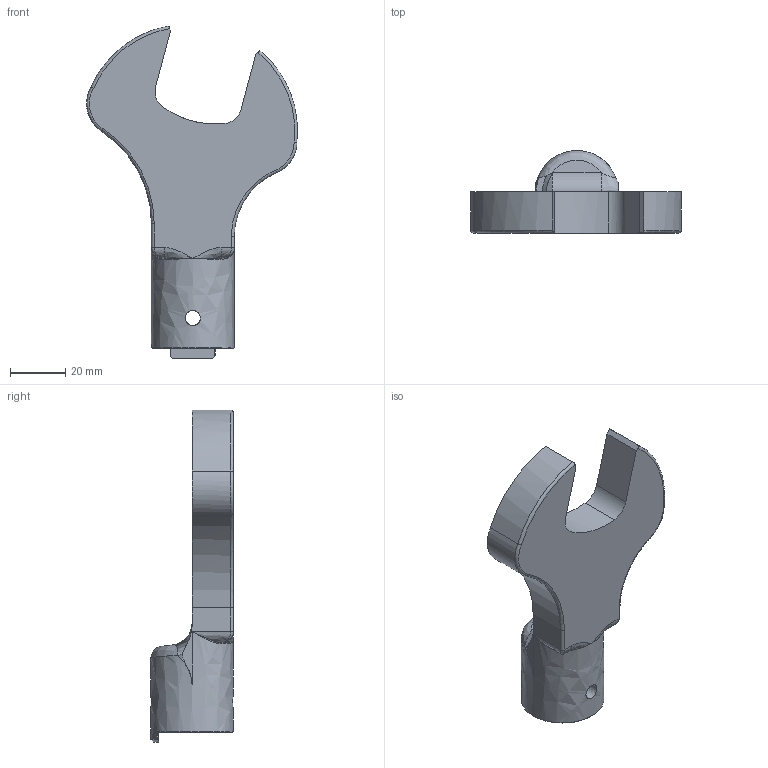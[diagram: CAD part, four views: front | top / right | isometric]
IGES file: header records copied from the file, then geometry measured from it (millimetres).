
Global section: file name: SH22DX32; native system: Autodesk Inventor 2016; preprocessor: unknown; author: Q600; date: 20151029.174739; units: millimetre
Bounding box: 76.34 x 30 x 120.23 mm (x, y, z)
Volume: 62100.9 mm3; surface area: 16537.3 mm2
Topology: 1 solids, 1 shells, 61 faces, 165 edges, 97 vertices
Faces by surface type: bspline 61
